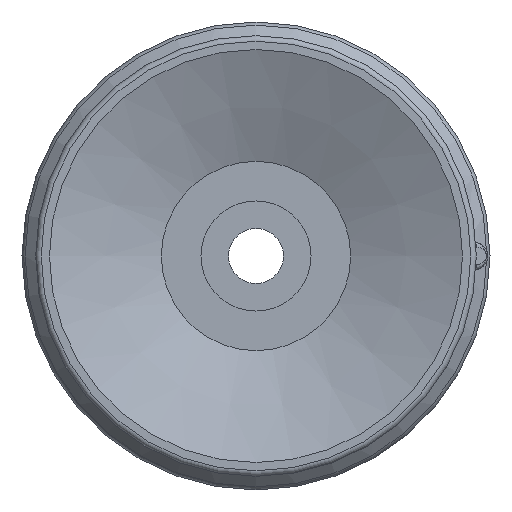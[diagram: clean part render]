
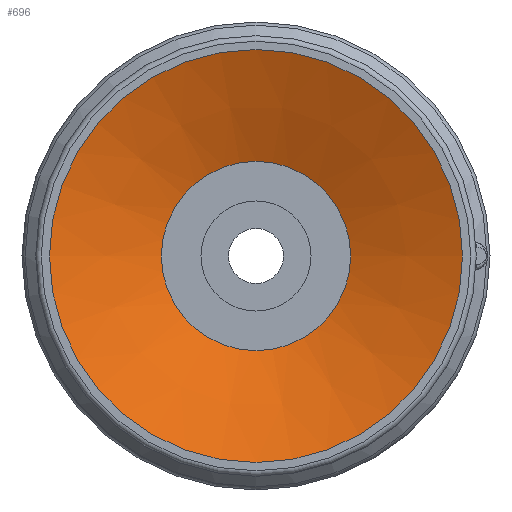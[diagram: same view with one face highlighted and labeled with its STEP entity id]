
A CAD part, front view. The second image highlights one B-rep face of the part: STEP entity #696.
In plain terms, the highlighted conical face has half-angle 67.5 degrees and reference radius 3.437 mm.
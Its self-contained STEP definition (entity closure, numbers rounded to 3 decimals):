
#696=ADVANCED_FACE('',(#976,#977),#978,.F.);
#976=FACE_BOUND('',#2318,.T.);
#977=FACE_OUTER_BOUND('',#2319,.T.);
#978=CONICAL_SURFACE('',#2320,3.437,1.178);
#2318=EDGE_LOOP('',(#3073));
#2319=EDGE_LOOP('',(#3074));
#2320=AXIS2_PLACEMENT_3D('',#3075,#3076,#3077);
#3073=ORIENTED_EDGE('',*,*,#3450,.F.);
#3074=ORIENTED_EDGE('',*,*,#3451,.T.);
#3075=CARTESIAN_POINT('',(0.0,0.0,1.683));
#3076=DIRECTION('',(0.0,0.,-1.0));
#3077=DIRECTION('',(0.0,1.0,0.));
#3450=EDGE_CURVE('',#3827,#3827,#3828,.T.);
#3451=EDGE_CURVE('',#3829,#3829,#3830,.T.);
#3827=VERTEX_POINT('',#4784);
#3828=CIRCLE('',#4785,3.437);
#3829=VERTEX_POINT('',#4786);
#3830=CIRCLE('',#4787,7.5);
#4784=CARTESIAN_POINT('',(-3.437,0.0,1.683));
#4785=AXIS2_PLACEMENT_3D('',#5145,#5146,#5147);
#4786=CARTESIAN_POINT('',(-7.5,0.0,0.));
#4787=AXIS2_PLACEMENT_3D('',#5148,#5149,#5150);
#5145=CARTESIAN_POINT('',(0.0,0.0,1.683));
#5146=DIRECTION('',(0.0,0.,-1.0));
#5147=DIRECTION('',(0.0,1.0,0.));
#5148=CARTESIAN_POINT('',(0.0,0.0,0.));
#5149=DIRECTION('',(0.0,0.,-1.0));
#5150=DIRECTION('',(0.0,1.0,0.));
